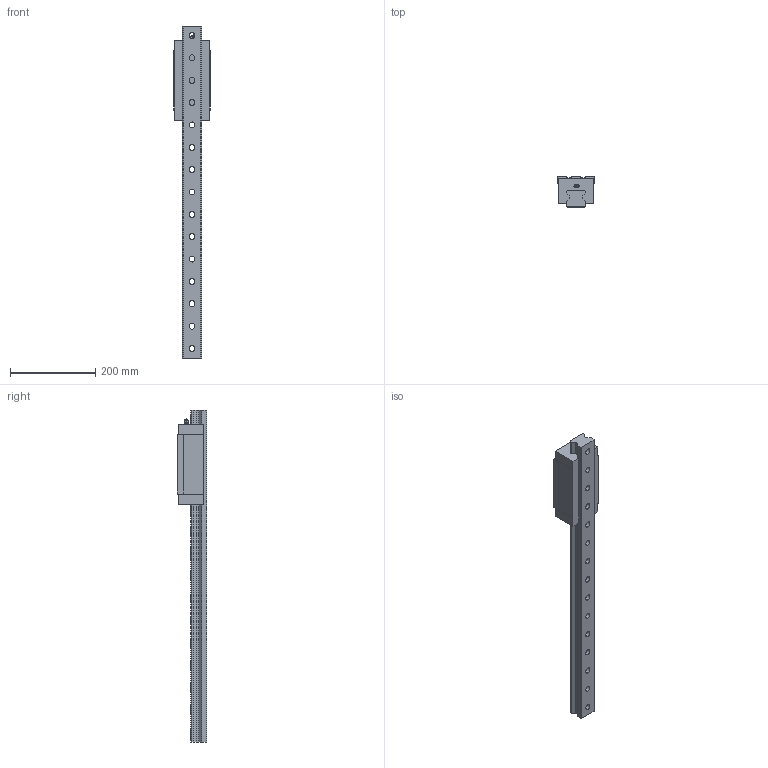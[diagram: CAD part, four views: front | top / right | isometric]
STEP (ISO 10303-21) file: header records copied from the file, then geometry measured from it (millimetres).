
FILE_DESCRIPTION(('STEP AP214'),'1');
FILE_NAME('D:/ModelConvertServices/Model.001/SVC.ACISConvertServices001/output/b420448e-2c25-4f48-93cf-97c8b649574b/1_RGH45HA1R780ZOH.step','2022-07-22T10:26:34',(' '),(' '),'Spatial InterOp 3D',' ',' ');
FILE_SCHEMA(('automotive_design'));
Length unit declared in the file: millimetre
Products named in the file (2): 1; 2
Bounding box: 86 x 70 x 780 mm (x, y, z)
Volume: 1790039 mm3; surface area: 243239.4 mm2
Topology: 2 solids, 2 shells, 284 faces, 701 edges, 456 vertices
Faces by surface type: plane 140, cylinder 112, cone 30, sphere 2
Entity records: 10818 total; most frequent: CARTESIAN_POINT 1601, DIRECTION 1483, ORIENTED_EDGE 1398, EDGE_CURVE 699, AXIS2_PLACEMENT_3D 546, VERTEX_POINT 456, LINE 391, VECTOR 391
